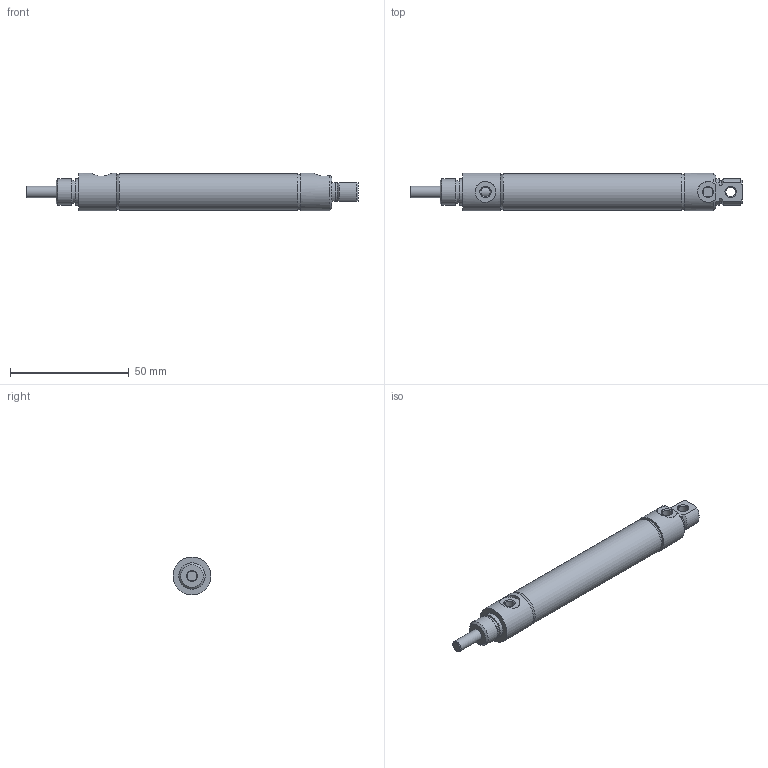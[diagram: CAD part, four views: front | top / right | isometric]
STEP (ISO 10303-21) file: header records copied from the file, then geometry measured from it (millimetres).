
FILE_DESCRIPTION( ( 'STEP AP214' ), '1' );
FILE_NAME( 'p:/temp/worker_435/temp/exporttempdir_5616_18_LZfyD/format_0/0563D02-02A-03.stp', '2020-05-07T13:42:31', ( 'License CC BY-ND 4.0' ), ( 'CADENAS' ), ' ', 'PARTsolutions', ' ' );
FILE_SCHEMA( ( 'AUTOMOTIVE_DESIGN { 1 0 10303 214 1 1 1 1 }' ) );
Length unit declared in the file: inch
Products named in the file (3): 0563D02-02A-03; _0563D02-02A-0300A00A0b; _0563D02-02A-0300A00A0r
Assembly tree (2 placements, depth 2):
  0563D02-02A-03
    _0563D02-02A-0300A00A0b
    _0563D02-02A-0300A00A0r
Bounding box: 139.73 x 15.88 x 15.88 mm (x, y, z)
Volume: 14490.6 mm3; surface area: 13403.9 mm2
Topology: 2 solids, 2 shells, 58 faces, 120 edges, 77 vertices
Faces by surface type: cylinder 22, plane 22, cone 14
Full cylindrical faces by diameter (mm): 3.967 x2, 3.988 x1, 4.775 x2, 4.826 x1, 8.738 x1, 9.601 x1, 11.1 x2, 14.287 x2, 15.392 x1, 15.875 x2
Entity records: 2087 total; most frequent: CARTESIAN_POINT 422, DIRECTION 253, ORIENTED_EDGE 186, AXIS2_PLACEMENT_3D 115, EDGE_LOOP 97, EDGE_CURVE 93, VERTEX_POINT 74, FACE_OUTER_BOUND 73
